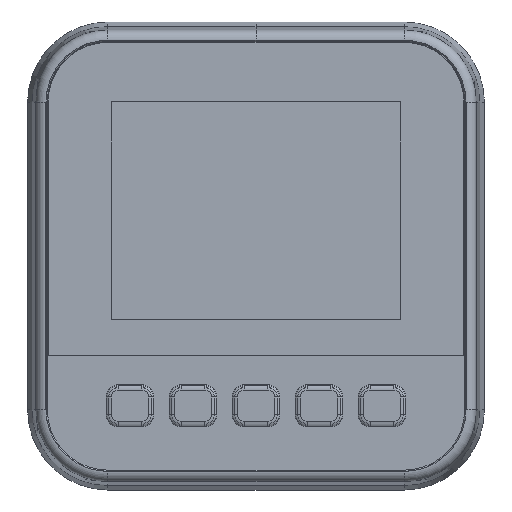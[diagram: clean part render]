
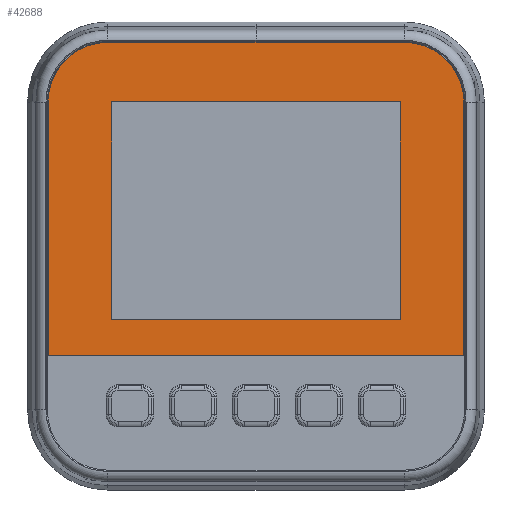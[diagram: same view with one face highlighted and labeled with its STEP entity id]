
A CAD part, top view. The second image highlights one B-rep face of the part: STEP entity #42688.
In plain terms, the highlighted planar face has unit normal (0, 0, 1).
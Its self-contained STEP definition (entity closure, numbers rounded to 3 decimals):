
#732 = CARTESIAN_POINT ( 'NONE',  ( 36.45, 37.825, 20.001 ) ) ;
#3422 = CARTESIAN_POINT ( 'NONE',  ( -35.54, 37.825, 20.001 ) ) ;
#3646 = DIRECTION ( 'NONE',  ( -1., 0., 0. ) ) ;
#3998 = LINE ( 'NONE', #53369, #108555 ) ;
#5125 = VECTOR ( 'NONE', #120412, 1000. ) ;
#7066 = CARTESIAN_POINT ( 'NONE',  ( 35.54, 37.88, 20.001 ) ) ;
#7204 = DIRECTION ( 'NONE',  ( 1., 0., 0. ) ) ;
#8322 = AXIS2_PLACEMENT_3D ( 'NONE', #104765, #44999, #55383 ) ;
#9374 = DIRECTION ( 'NONE',  ( -1., 0., 0. ) ) ;
#13176 = VERTEX_POINT ( 'NONE', #55066 ) ;
#15242 = DIRECTION ( 'NONE',  ( 1., 0., 0. ) ) ;
#15927 = CARTESIAN_POINT ( 'NONE',  ( 36.45, 52.525, 20.001 ) ) ;
#16586 = ORIENTED_EDGE ( 'NONE', *, *, #42074, .T. ) ;
#17729 = ORIENTED_EDGE ( 'NONE', *, *, #40270, .T. ) ;
#19242 = ORIENTED_EDGE ( 'NONE', *, *, #103119, .T. ) ;
#20015 = FACE_BOUND ( 'NONE', #70108, .T. ) ;
#23525 = LINE ( 'NONE', #71609, #5125 ) ;
#23676 = VERTEX_POINT ( 'NONE', #39569 ) ;
#23793 = LINE ( 'NONE', #34191, #126979 ) ;
#23945 = AXIS2_PLACEMENT_3D ( 'NONE', #85988, #104231, #15242 ) ;
#24266 = EDGE_CURVE ( 'NONE', #118433, #24855, #54207, .T. ) ;
#24855 = VERTEX_POINT ( 'NONE', #123778 ) ;
#25700 = VECTOR ( 'NONE', #54813, 1000. ) ;
#26513 = ORIENTED_EDGE ( 'NONE', *, *, #109356, .T. ) ;
#30416 = ORIENTED_EDGE ( 'NONE', *, *, #119712, .T. ) ;
#31603 = LINE ( 'NONE', #53030, #79638 ) ;
#34191 = CARTESIAN_POINT ( 'NONE',  ( 51.15, 37.825, 20.001 ) ) ;
#36570 = EDGE_CURVE ( 'NONE', #86242, #117050, #89865, .T. ) ;
#37725 = LINE ( 'NONE', #98099, #116935 ) ;
#39569 = CARTESIAN_POINT ( 'NONE',  ( -35.54, 37.88, 20.001 ) ) ;
#39615 = ORIENTED_EDGE ( 'NONE', *, *, #41807, .T. ) ;
#39881 = CARTESIAN_POINT ( 'NONE',  ( 36.45, -15.68, 20.001 ) ) ;
#40270 = EDGE_CURVE ( 'NONE', #117050, #23676, #110022, .T. ) ;
#40329 = DIRECTION ( 'NONE',  ( 0., 0., 1. ) ) ;
#41654 = CARTESIAN_POINT ( 'NONE',  ( -35.54, -15.68, 20.001 ) ) ;
#41807 = EDGE_CURVE ( 'NONE', #24855, #13176, #23525, .T. ) ;
#42045 = FACE_OUTER_BOUND ( 'NONE', #54539, .T. ) ;
#42074 = EDGE_CURVE ( 'NONE', #89315, #107631, #42487, .T. ) ;
#42487 = CIRCLE ( 'NONE', #115127, 14.7 ) ;
#42688 = ADVANCED_FACE ( 'NONE', ( #42045, #20015 ), #59639, .T. ) ;
#44999 = DIRECTION ( 'NONE',  ( 0., 0., 1. ) ) ;
#49375 = CARTESIAN_POINT ( 'NONE',  ( 35.54, 37.825, 20.001 ) ) ;
#53030 = CARTESIAN_POINT ( 'NONE',  ( -36.45, 52.525, 20.001 ) ) ;
#53369 = CARTESIAN_POINT ( 'NONE',  ( 36.45, 37.88, 20.001 ) ) ;
#54207 = CIRCLE ( 'NONE', #8322, 14.7 ) ;
#54539 = EDGE_LOOP ( 'NONE', ( #39615, #73429, #19242, #16586, #26513, #122318 ) ) ;
#54813 = DIRECTION ( 'NONE',  ( 0., -1., 0. ) ) ;
#55066 = CARTESIAN_POINT ( 'NONE',  ( -51.15, -24.425, 20.001 ) ) ;
#55383 = DIRECTION ( 'NONE',  ( -1., 0., 0. ) ) ;
#58792 = VECTOR ( 'NONE', #91750, 1000. ) ;
#59639 = PLANE ( 'NONE',  #23945 ) ;
#63739 = DIRECTION ( 'NONE',  ( 1., 0., 0. ) ) ;
#68696 = VECTOR ( 'NONE', #9374, 1000. ) ;
#70108 = EDGE_LOOP ( 'NONE', ( #30416, #94378, #17729, #116990 ) ) ;
#70190 = DIRECTION ( 'NONE',  ( -1., 0., 0. ) ) ;
#71609 = CARTESIAN_POINT ( 'NONE',  ( -51.15, -24.525, 20.001 ) ) ;
#72813 = CARTESIAN_POINT ( 'NONE',  ( 51.15, 37.825, 20.001 ) ) ;
#72820 = CARTESIAN_POINT ( 'NONE',  ( -36.45, 52.525, 20.001 ) ) ;
#73429 = ORIENTED_EDGE ( 'NONE', *, *, #118646, .T. ) ;
#74909 = LINE ( 'NONE', #49375, #25700 ) ;
#79638 = VECTOR ( 'NONE', #3646, 1000. ) ;
#80621 = VERTEX_POINT ( 'NONE', #7066 ) ;
#80785 = CARTESIAN_POINT ( 'NONE',  ( 51.15, -24.425, 20.001 ) ) ;
#85988 = CARTESIAN_POINT ( 'NONE',  ( 36.45, 37.825, 20.001 ) ) ;
#86242 = VERTEX_POINT ( 'NONE', #98229 ) ;
#89315 = VERTEX_POINT ( 'NONE', #72813 ) ;
#89865 = LINE ( 'NONE', #39881, #68696 ) ;
#91750 = DIRECTION ( 'NONE',  ( 0., 1., 0. ) ) ;
#94378 = ORIENTED_EDGE ( 'NONE', *, *, #36570, .T. ) ;
#94581 = DIRECTION ( 'NONE',  ( 0., 1., 0. ) ) ;
#98099 = CARTESIAN_POINT ( 'NONE',  ( 51.25, -24.425, 20.001 ) ) ;
#98229 = CARTESIAN_POINT ( 'NONE',  ( 35.54, -15.68, 20.001 ) ) ;
#103119 = EDGE_CURVE ( 'NONE', #111028, #89315, #23793, .T. ) ;
#104231 = DIRECTION ( 'NONE',  ( 0., 0., 1. ) ) ;
#104765 = CARTESIAN_POINT ( 'NONE',  ( -36.45, 37.825, 20.001 ) ) ;
#107631 = VERTEX_POINT ( 'NONE', #15927 ) ;
#108555 = VECTOR ( 'NONE', #63739, 1000. ) ;
#109356 = EDGE_CURVE ( 'NONE', #107631, #118433, #31603, .T. ) ;
#110022 = LINE ( 'NONE', #3422, #58792 ) ;
#111028 = VERTEX_POINT ( 'NONE', #80785 ) ;
#115127 = AXIS2_PLACEMENT_3D ( 'NONE', #732, #40329, #70190 ) ;
#116935 = VECTOR ( 'NONE', #7204, 1000. ) ;
#116990 = ORIENTED_EDGE ( 'NONE', *, *, #118352, .T. ) ;
#117050 = VERTEX_POINT ( 'NONE', #41654 ) ;
#118352 = EDGE_CURVE ( 'NONE', #23676, #80621, #3998, .T. ) ;
#118433 = VERTEX_POINT ( 'NONE', #72820 ) ;
#118646 = EDGE_CURVE ( 'NONE', #13176, #111028, #37725, .T. ) ;
#119712 = EDGE_CURVE ( 'NONE', #80621, #86242, #74909, .T. ) ;
#120412 = DIRECTION ( 'NONE',  ( 0., -1., 0. ) ) ;
#122318 = ORIENTED_EDGE ( 'NONE', *, *, #24266, .T. ) ;
#123778 = CARTESIAN_POINT ( 'NONE',  ( -51.15, 37.825, 20.001 ) ) ;
#126979 = VECTOR ( 'NONE', #94581, 1000. ) ;
